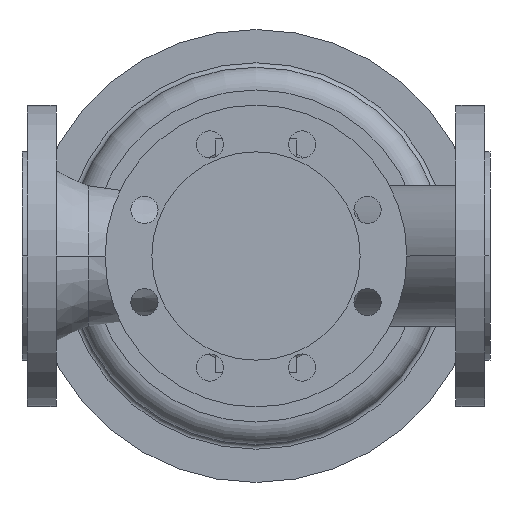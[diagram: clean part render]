
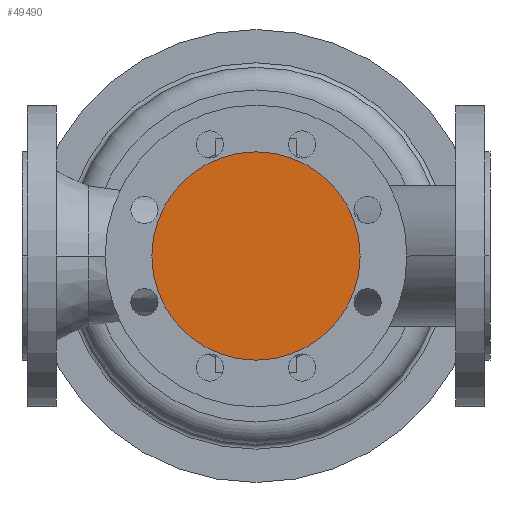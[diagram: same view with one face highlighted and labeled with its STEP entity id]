
A CAD part, front view. The second image highlights one B-rep face of the part: STEP entity #49490.
In plain terms, the highlighted planar face has unit normal (0, -1, 0).
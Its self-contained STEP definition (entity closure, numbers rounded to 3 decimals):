
#3440=CARTESIAN_POINT('',(224.,-130.,0.));
#3450=VERTEX_POINT('',#3440);
#3610=CARTESIAN_POINT('',(86.,-130.,0.));
#3620=VERTEX_POINT('',#3610);
#3650=CARTESIAN_POINT('',(155.,-130.,0.));
#3660=DIRECTION('',(0.,1.,0.));
#3670=DIRECTION('',(1.,0.,0.));
#3680=AXIS2_PLACEMENT_3D('',#3650,#3660,#3670);
#3690=CIRCLE('',#3680,69.);
#3700=EDGE_CURVE('',#3450,#3620,#3690,.T.);
#49390=CARTESIAN_POINT('',(189.5,-130.,0.));
#49400=DIRECTION('',(0.,-1.,0.));
#49410=DIRECTION('',(-1.,0.,0.));
#49420=AXIS2_PLACEMENT_3D('',#49390,#49400,#49410);
#49430=PLANE('',#49420);
#49440=EDGE_CURVE('',#3620,#3450,#3690,.T.);
#49450=ORIENTED_EDGE('',*,*,#49440,.F.);
#49460=ORIENTED_EDGE('',*,*,#3700,.F.);
#49470=EDGE_LOOP('',(#49460,#49450));
#49480=FACE_OUTER_BOUND('',#49470,.T.);
#49490=ADVANCED_FACE('',(#49480),#49430,.T.);
